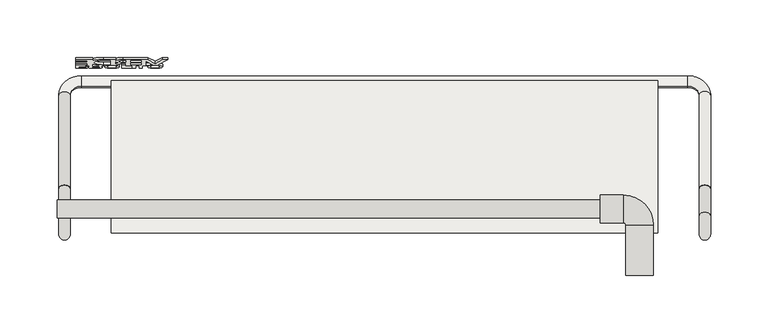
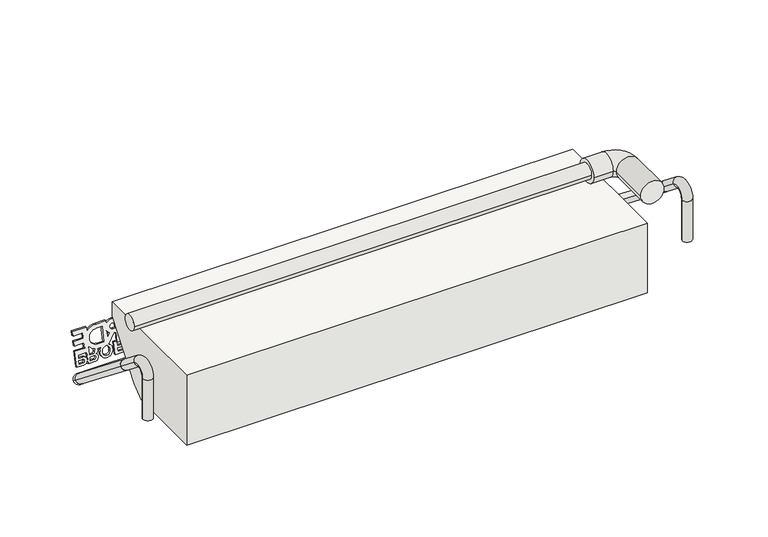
"""IFC4 building model written with IfcOpenShell, lengths in millimetres: covering geometry, panel VP Modulo prova ultima texture : panel VP Modulo prova ultima texture."""

from ifc_helpers import new_model, si_unit, point, frame, frame_2d, origin, place, context, project, spatial, polyline, circle_curve, ellipse_curve, trimmed, segment, composite_curve, outline, extrude, source, transform, mapped, element, save
from ifc_brep_helpers import plane_surface, cylinder_surface, revolved_surface, advanced_brep


def covering_cad52688(model_context):
    return source(origin(), model_context, "Body", "SolidModel", [
        extrude(outline(composite_curve([segment(polyline([(34.7220757, 0.0), (58.7996813, 0.0)]), True, "CONTINUOUS"), segment(trimmed(circle_curve(frame_2d((65.064279, 0.602523)), 6.293506), [point((58.7996813, 0.0))], [point((63.4156115, 6.6762462))], False, "CARTESIAN"), True, "CONTINUOUS"), segment(trimmed(circle_curve(frame_2d((65.6666707, 0.6823428)), 6.4026671), [point((63.4156115, 6.6762462))], [point((68.2653757, -5.1692278))], False, "CARTESIAN"), True, "CONTINUOUS"), segment(trimmed(circle_curve(frame_2d((65.2033193, 0.2002614)), 6.1812298), [point((68.2653757, -5.1692278))], [point((64.2093266, -5.9005239))], False, "CARTESIAN"), True, "CONTINUOUS"), segment(polyline([(64.2093266, -5.9005239), (66.3168223, -11.0476864), (75.8016954, -7.1641235), (76.862281, -9.7544046), (66.3136897, -14.073505), (67.4636632, -16.8820993), (78.0122546, -12.5629989), (79.0728402, -15.15328), (68.5242489, -19.4723804), (70.734808, -24.8712558), (61.6931831, -28.5733317), (62.6270622, -30.854156), (73.074875, -33.0832316)]), True, "CONTINUOUS"), segment(trimmed(circle_curve(frame_2d((79.2445531, -34.0648779)), 6.247284), [point((73.074875, -33.0832316))], [point((77.6263487, -28.0308102))], False, "CARTESIAN"), True, "CONTINUOUS"), segment(trimmed(circle_curve(frame_2d((79.877408, -34.0247136)), 6.4026671), [point((77.6263487, -28.0308102))], [point((82.4790998, -39.8749568))], False, "CARTESIAN"), True, "CONTINUOUS"), segment(trimmed(circle_curve(frame_2d((79.4067188, -34.4842118)), 6.2048092), [point((82.4790998, -39.8749568))], [point((77.0112198, -40.2079555))], False, "CARTESIAN"), True, "CONTINUOUS"), segment(polyline([(77.0112198, -40.2079555), (78.1993615, -43.1097685)]), True, "CONTINUOUS"), segment(trimmed(circle_curve(frame_2d((66.5130174, -47.6019204)), 12.5199867), [point((78.1993615, -43.1097685))], [point((78.4709528, -43.8927628))], False, "CARTESIAN"), True, "CONTINUOUS"), segment(polyline([(78.4709528, -43.8927628), (79.5384706, -43.4513167)]), True, "CONTINUOUS"), segment(trimmed(circle_curve(frame_2d((81.1236564, -46.5289179)), 3.4618554), [point((79.5384706, -43.4513167))], [point((83.2640668, -43.8080566))], False, "CARTESIAN"), True, "CONTINUOUS"), segment(trimmed(circle_curve(frame_2d((86.9930546, -44.5041075)), 3.7933939), [point((83.2640668, -43.8080566))], [point((90.5427255, -43.1663204))], False, "CARTESIAN"), True, "CONTINUOUS"), segment(polyline([(90.5427255, -43.1663204), (93.2835774, -49.8603365), (82.7349861, -54.1794368), (86.0955188, -62.3869066), (89.2825225, -61.0819941), (87.602256, -56.9782588)]), True, "CONTINUOUS"), segment(trimmed(circle_curve(frame_2d((91.2496312, -55.4763574)), 3.9444966), [point((87.602256, -56.9782588))], [point((87.6394877, -53.8870441))], False, "CARTESIAN"), True, "CONTINUOUS"), segment(trimmed(circle_curve(frame_2d((91.0795377, -55.4029609)), 3.7592483), [point((87.6394877, -53.8870441))], [point((89.8068057, -51.865716))], False, "CARTESIAN"), True, "CONTINUOUS"), segment(trimmed(circle_curve(frame_2d((91.3826275, -55.3791794)), 3.8506675), [point((89.8068057, -51.865716))], [point((94.9638437, -53.9640713))], False, "CARTESIAN"), True, "CONTINUOUS"), segment(polyline([(94.9638437, -53.9640713), (97.7046957, -60.6580874), (83.1186527, -66.6303145), (79.3291228, -57.3750995), (74.3249248, -59.4240587), (78.1144547, -68.6792737), (74.077003, -70.3324005), (70.2874731, -61.0771855), (65.283275, -63.1261447), (69.0728049, -72.3813598), (65.0353533, -74.0344866), (59.5536495, -60.6464545), (63.573194, -59.0006598)]), True, "CONTINUOUS"), segment(trimmed(circle_curve(frame_2d((67.4307018, -47.253167)), 12.364625), [point((63.573194, -59.0006598))], [point((55.9786182, -51.9151121))], False, "CARTESIAN"), True, "CONTINUOUS"), segment(polyline([(55.9786182, -51.9151121), (51.9745896, -42.1360244), (54.8949193, -40.940301)]), True, "CONTINUOUS"), segment(trimmed(circle_curve(frame_2d((56.8950264, -33.2916253)), 7.9058629), [point((54.8949193, -40.940301))], [point((49.6285766, -36.4063284))], False, "CARTESIAN"), True, "CONTINUOUS"), segment(polyline([(49.6285766, -36.4063284), (41.3068641, -16.0821088), (53.1289126, -4.4511801), (36.5446028, -4.4511801), (34.7220757, 0.0)]), True, "CONTINUOUS")], self_intersect=False), holes=[composite_curve([segment(polyline([(91.3698144, -60.2273564), (94.5568181, -58.9224439), (93.0429627, -55.2251363)]), True, "CONTINUOUS"), segment(trimmed(circle_curve(frame_2d((91.4494608, -55.8775925)), 1.7219023), [point((93.0429627, -55.2251363))], [point((89.855959, -56.5300488))], True, "CARTESIAN"), True, "CONTINUOUS"), segment(polyline([(89.855959, -56.5300488), (91.3698144, -60.2273564)]), True, "CONTINUOUS")], self_intersect=False), composite_curve([segment(polyline([(77.6536647, -53.2354382), (84.8614042, -50.2842432), (83.4804082, -46.9114199)]), True, "CONTINUOUS"), segment(trimmed(circle_curve(frame_2d((82.0055188, -47.9798171)), 1.8212006), [point((83.4804082, -46.9114199))], [point((81.4459172, -46.2467223))], True, "CARTESIAN"), True, "CONTINUOUS"), segment(polyline([(81.4459172, -46.2467223), (79.005401, -46.7813864)]), True, "CONTINUOUS"), segment(trimmed(circle_curve(frame_2d((66.800009, -47.5936694)), 12.2323913), [point((79.005401, -46.7813864))], [point((77.6536647, -53.2354382))], False, "CARTESIAN"), True, "CONTINUOUS")], self_intersect=False), composite_curve([segment(polyline([(80.0469884, -37.8463889), (81.818283, -37.1211357)]), True, "CONTINUOUS"), segment(trimmed(circle_curve(frame_2d((80.3714599, -33.8224141)), 3.6020635), [point((81.818283, -37.1211357))], [point((79.0874462, -30.4569765))], True, "CARTESIAN"), True, "CONTINUOUS"), segment(polyline([(79.0874462, -30.4569765), (77.318043, -31.1814552)]), True, "CONTINUOUS"), segment(trimmed(circle_curve(frame_2d((78.7640582, -34.4805346)), 3.6020668), [point((77.318043, -31.1814552))], [point((80.0469884, -37.8463889))], True, "CARTESIAN"), True, "CONTINUOUS")], self_intersect=False), composite_curve([segment(polyline([(64.8767089, 4.25008), (63.1073057, 3.5256013)]), True, "CONTINUOUS"), segment(trimmed(circle_curve(frame_2d((64.5533209, 0.2265218)), 3.6020668), [point((63.1073057, 3.5256013))], [point((65.8362512, -3.1393324))], True, "CARTESIAN"), True, "CONTINUOUS"), segment(polyline([(65.8362512, -3.1393324), (67.6075457, -2.4140793)]), True, "CONTINUOUS"), segment(trimmed(circle_curve(frame_2d((66.1607227, 0.8846423)), 3.6020635), [point((67.6075457, -2.4140793))], [point((64.8767089, 4.25008))], True, "CARTESIAN"), True, "CONTINUOUS")], self_intersect=False), composite_curve([segment(polyline([(49.3862172, -14.3776132), (62.966359, -8.8172503), (61.7031824, -5.7321785), (62.543491, -5.3881158)]), True, "CONTINUOUS"), segment(trimmed(circle_curve(frame_2d((65.2914898, 0.489271)), 6.4880792), [point((62.543491, -5.3881158))], [point((60.2929855, -3.647168))], False, "CARTESIAN"), True, "CONTINUOUS"), segment(polyline([(60.2929855, -3.647168), (49.3862172, -14.3776132)]), True, "CONTINUOUS")], self_intersect=False), polyline([(47.598802, -19.9351412), (50.9593347, -28.1426109), (55.9635327, -26.0936517), (52.603, -17.8861819), (47.598802, -19.9351412)]), polyline([(60.0009844, -24.4405249), (65.0051824, -22.3915657), (61.6446497, -14.1840959), (56.6404517, -16.2330551), (60.0009844, -24.4405249)]), composite_curve([segment(polyline([(52.6514049, -32.2754703), (53.692025, -34.8169896)]), True, "CONTINUOUS"), segment(trimmed(circle_curve(frame_2d((56.2265541, -33.8697215)), 2.7057631), [point((53.692025, -34.8169896))], [point((58.6823172, -32.7337722))], True, "CARTESIAN"), True, "CONTINUOUS"), segment(polyline([(58.6823172, -32.7337722), (57.6557066, -30.2264686), (52.6514049, -32.2754703)]), True, "CONTINUOUS")], self_intersect=False), composite_curve([segment(polyline([(62.001845, -38.030384), (66.4600603, -36.2049764), (63.0935891, -35.4866797)]), True, "CONTINUOUS"), segment(trimmed(circle_curve(frame_2d((53.824583, -33.01461)), 9.5929977), [point((63.0935891, -35.4866797))], [point((62.001845, -38.030384))], False, "CARTESIAN"), True, "CONTINUOUS")], self_intersect=False), composite_curve([segment(polyline([(57.7042151, -44.6157146), (60.0160697, -50.2619853)]), True, "CONTINUOUS"), segment(trimmed(circle_curve(frame_2d((67.1061304, -47.5504315)), 7.5908816), [point((60.0160697, -50.2619853))], [point((74.0619175, -44.5109401))], True, "CARTESIAN"), True, "CONTINUOUS"), segment(polyline([(74.0619175, -44.5109401), (71.7500629, -38.8646693), (57.7042151, -44.6157146)]), True, "CONTINUOUS")], self_intersect=False), composite_curve([segment(polyline([(86.9486962, -49.4296055), (90.1356999, -48.124693), (88.6218444, -44.4273854)]), True, "CONTINUOUS"), segment(trimmed(circle_curve(frame_2d((87.0283426, -45.0798417)), 1.7219023), [point((88.6218444, -44.4273854))], [point((85.4348407, -45.7322979))], True, "CARTESIAN"), True, "CONTINUOUS"), segment(polyline([(85.4348407, -45.7322979), (86.9486962, -49.4296055)]), True, "CONTINUOUS")], self_intersect=False)]), frame((-175.3240629, 210.3688908, 529.4713363), z_axis=(0.0, -0.9769248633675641, 0.21358326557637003), x_axis=(-0.3789159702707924, -0.19765659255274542, -0.9040766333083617)), (0.0, 0.0, 1.0), 2.0),
        extrude(outline(polyline([(76.2116947, -23.2064962), (79.3986984, -21.9015837), (77.1881392, -16.5027082), (79.2754312, -15.6480706), (82.5465759, -23.6372271), (70.9744162, -28.3754256), (69.9138306, -25.7851445), (74.1244027, -24.0611338), (71.9138436, -18.6622584), (74.0011355, -17.8076207), (76.2116947, -23.2064962)])), frame((-175.3240629, 210.3688908, 529.4713363), z_axis=(0.0, -0.9769248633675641, 0.21358326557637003), x_axis=(-0.3789159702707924, -0.19765659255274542, -0.9040766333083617)), (0.0, 0.0, 1.0), 2.0),
        advanced_brep(
        [(-284.4808119, 63.5015434, 593.1813202), (-284.4808119, 79.5015434, 593.1813202), (187.7808119, 63.5015434, 593.1813202), (187.7808119, 79.5015434, 593.1813202), (187.7808119, 59.5015434, 593.1813202), (187.7808119, 83.5015434, 593.1813202), (207.7808119, 59.5015434, 593.1813202), (207.7808119, 83.5015434, 593.1813202), (209.7808119, 57.5015434, 593.1813202), (233.7808119, 57.5015434, 593.1813202), (209.7808119, 13.5015434, 593.1813202), (233.7808119, 13.5015434, 593.1813202)],
        [
            (0, 1, circle_curve(frame((-284.4808119, 71.5015434, 593.1813202), z_axis=(-1.0, 0.0, 0.0), x_axis=(0.0, 1.0, 0.0)), 8.0)),
            (1, 0, circle_curve(frame((-284.4808119, 71.5015434, 593.1813202), z_axis=(-1.0, 0.0, 0.0), x_axis=(0.0, 1.0, 0.0)), 8.0)),
            (0, 2),
            (2, 3, circle_curve(frame((187.7808119, 71.5015434, 593.1813202), z_axis=(-1.0, 0.0, 0.0), x_axis=(0.0, 1.0, 0.0)), 8.0)),
            (3, 1),
            (3, 2, circle_curve(frame((187.7808119, 71.5015434, 593.1813202), z_axis=(-1.0, 0.0, 0.0), x_axis=(0.0, 1.0, 0.0)), 8.0)),
            (4, 5, circle_curve(frame((187.7808119, 71.5015434, 593.1813202), z_axis=(-1.0, 0.0, 0.0), x_axis=(0.0, 1.0, 0.0)), 12.0)),
            (5, 4, circle_curve(frame((187.7808119, 71.5015434, 593.1813202), z_axis=(-1.0, 0.0, 0.0), x_axis=(0.0, 1.0, 0.0)), 12.0)),
            (4, 6),
            (6, 7, circle_curve(frame((207.7808119, 71.5015434, 593.1813202), z_axis=(-1.0, 0.0, 0.0), x_axis=(0.0, 1.0, 0.0)), 12.0)),
            (7, 5),
            (7, 6, circle_curve(frame((207.7808119, 71.5015434, 593.1813202), z_axis=(-1.0, 0.0, 0.0), x_axis=(0.0, 1.0, 0.0)), 12.0)),
            (6, 8, circle_curve(frame((207.7808119, 57.5015434, 593.1813202), z_axis=(0.0, 0.0, -1.0), x_axis=(0.0, 1.0, 0.0)), 2.0)),
            (8, 9, circle_curve(frame((221.7808119, 57.5015434, 593.1813202), z_axis=(0.0, 1.0, 0.0), x_axis=(1.0, 0.0, 0.0)), 12.0)),
            (9, 7, circle_curve(frame((207.7808119, 57.5015434, 593.1813202), z_axis=(0.0, 0.0, 1.0), x_axis=(0.0, 1.0, 0.0)), 26.0)),
            (9, 8, circle_curve(frame((221.7808119, 57.5015434, 593.1813202), z_axis=(0.0, 1.0, 0.0), x_axis=(1.0, 0.0, 0.0)), 12.0)),
            (10, 11, circle_curve(frame((221.7808119, 13.5015434, 593.1813202), z_axis=(0.0, -1.0, 0.0), x_axis=(1.0, 0.0, 0.0)), 12.0)),
            (11, 10, circle_curve(frame((221.7808119, 13.5015434, 593.1813202), z_axis=(0.0, -1.0, 0.0), x_axis=(1.0, 0.0, 0.0)), 12.0)),
            (8, 10),
            (11, 9),
        ],
        [
            plane_surface(frame((-284.4808119, 63.5015434, 593.1813202), z_axis=(-1.0, 0.0, 0.0), x_axis=(0.0, 0.0, 1.0))),
            cylinder_surface(frame((-284.4808119, 71.5015434, 593.1813202), z_axis=(-1.0, 0.0, 0.0), x_axis=(0.0, 1.0, 0.0)), 8.0),
            plane_surface(frame((187.7808119, 63.5015434, 593.1813202), z_axis=(-1.0, 0.0, 0.0), x_axis=(0.0, 0.0, 1.0))),
            cylinder_surface(frame((187.7808119, 71.5015434, 593.1813202), z_axis=(-1.0, 0.0, 0.0), x_axis=(0.0, 1.0, 0.0)), 12.0),
            revolved_surface(trimmed(ellipse_curve(frame((207.7808119, 71.5015434, 593.1813202), z_axis=(-1.0, 0.0, 0.0), x_axis=(0.0, 1.0, 0.0)), 12.0, 12.0), [point((207.7808119, 59.5015434, 593.1813202))], [point((207.7808119, 83.5015434, 593.1813202))], True, "CARTESIAN"), (207.7808119, 57.5015434, 593.1813202), (0.0, 0.0, -1.0)),
            revolved_surface(trimmed(ellipse_curve(frame((207.7808119, 71.5015434, 593.1813202), z_axis=(-1.0, 0.0, 0.0), x_axis=(0.0, 1.0, 0.0)), 12.0, 12.0), [point((207.7808119, 83.5015434, 593.1813202))], [point((207.7808119, 59.5015434, 593.1813202))], True, "CARTESIAN"), (207.7808119, 57.5015434, 593.1813202), (0.0, 0.0, -1.0)),
            plane_surface(frame((213.7808119, 13.5015434, 593.1813202), z_axis=(0.0, -1.0, 0.0), x_axis=(0.0, 0.0, 1.0))),
            cylinder_surface(frame((221.7808119, 57.5015434, 593.1813202), z_axis=(0.0, 1.0, 0.0), x_axis=(1.0, 0.0, 0.0)), 12.0),
        ],
        [
            (0, [[1, 2]]),
            (1, [[-1, 3, 4, 5]]),
            (1, [[-2, -5, 6, -3]]),
            (2, [[7, 8], [-4, -6]]),
            (3, [[-7, 9, 10, 11]]),
            (3, [[-8, -11, 12, -9]]),
            (4, [[-10, 13, 14, 15]]),
            (5, [[-12, -15, 16, -13]]),
            (6, [[17, 18]]),
            (7, [[-14, 19, -18, 20]]),
            (7, [[-16, -20, -17, -19]]),
        ],
    ),
        advanced_brep(
        [(283.4808119, 89.2250572, 533.983262), (273.4808119, 89.2251428, 533.9833699), (283.4808119, 170.6491384, 469.463417), (273.4808119, 170.6492239, 469.463525), (263.4808119, 178.4869122, 463.2529982), (263.4808119, 186.324515, 457.0423635), (-263.4808119, 186.324515, 457.0423635), (-263.4808119, 178.4869122, 463.2529982), (-273.4808119, 170.6492239, 469.463525), (-283.4808119, 170.6491384, 469.463417), (-283.4808119, 89.2250494, 533.9832681), (-273.4808119, 89.225135, 533.9833761)],
        [
            (0, 1, circle_curve(frame((278.4808119, 89.2250572, 533.983262), z_axis=(0.0, -0.7837688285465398, 0.6210526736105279), x_axis=(1.0, 0.0, 0.0)), 5.0)),
            (1, 0, circle_curve(frame((278.4808119, 89.2250572, 533.983262), z_axis=(0.0, -0.7837688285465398, 0.6210526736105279), x_axis=(1.0, 0.0, 0.0)), 5.0)),
            (0, 2),
            (2, 3, circle_curve(frame((278.4808119, 170.6491384, 469.463417), z_axis=(0.0, -0.7837688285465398, 0.6210526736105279), x_axis=(1.0, 0.0, 0.0)), 5.0)),
            (3, 1),
            (3, 2, circle_curve(frame((278.4808119, 170.6491384, 469.463417), z_axis=(0.0, -0.7837688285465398, 0.6210526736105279), x_axis=(1.0, 0.0, 0.0)), 5.0)),
            (4, 3, circle_curve(frame((263.4808119, 170.6492239, 469.463525), z_axis=(0.0, -0.6210526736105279, -0.7837688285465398), x_axis=(1.0, 0.0, 0.0)), 10.0)),
            (2, 5, circle_curve(frame((263.4808119, 170.6491384, 469.463417), z_axis=(0.0, 0.6210526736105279, 0.7837688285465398), x_axis=(1.0, 0.0, 0.0)), 20.0)),
            (5, 4, circle_curve(frame((263.4808119, 182.4056708, 460.1476269), z_axis=(1.0, 0.0, 0.0), x_axis=(0.0, 0.7837688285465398, -0.6210526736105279)), 5.0)),
            (4, 5, circle_curve(frame((263.4808119, 182.4056708, 460.1476269), z_axis=(1.0, 0.0, 0.0), x_axis=(0.0, 0.7837688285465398, -0.6210526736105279)), 5.0)),
            (5, 6),
            (6, 7, circle_curve(frame((-263.4808119, 182.4056708, 460.1476269), z_axis=(1.0, 0.0, 0.0), x_axis=(0.0, 0.7837688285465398, -0.6210526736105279)), 5.0)),
            (7, 4),
            (7, 6, circle_curve(frame((-263.4808119, 182.4056708, 460.1476269), z_axis=(1.0, 0.0, 0.0), x_axis=(0.0, 0.7837688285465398, -0.6210526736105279)), 5.0)),
            (8, 7, circle_curve(frame((-263.4808119, 170.6492239, 469.463525), z_axis=(0.0, -0.6210526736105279, -0.7837688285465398), x_axis=(0.0, 0.7837688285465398, -0.6210526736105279)), 10.0)),
            (6, 9, circle_curve(frame((-263.4808119, 170.6491384, 469.463417), z_axis=(0.0, 0.6210526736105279, 0.7837688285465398), x_axis=(0.0, 0.7837688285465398, -0.6210526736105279)), 20.0)),
            (9, 8, circle_curve(frame((-278.4808119, 170.6491384, 469.463417), z_axis=(0.0, 0.7837688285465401, -0.6210526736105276), x_axis=(-1.0000000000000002, 0.0, 0.0)), 5.0)),
            (8, 9, circle_curve(frame((-278.4808119, 170.6491384, 469.463417), z_axis=(0.0, 0.7837688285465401, -0.6210526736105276), x_axis=(-1.0000000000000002, 0.0, 0.0)), 5.0)),
            (10, 11, circle_curve(frame((-278.4808119, 89.2250494, 533.9832681), z_axis=(0.0, -0.7837688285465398, 0.6210526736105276), x_axis=(-1.0, 0.0, 0.0)), 5.0)),
            (11, 10, circle_curve(frame((-278.4808119, 89.2250494, 533.9832681), z_axis=(0.0, -0.7837688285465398, 0.6210526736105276), x_axis=(-1.0, 0.0, 0.0)), 5.0)),
            (9, 10),
            (11, 8),
        ],
        [
            plane_surface(frame((273.4808119, 92.3304015, 537.9022082), z_axis=(0.0, -0.7837688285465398, 0.6210526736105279), x_axis=(0.0, -0.6210526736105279, -0.7837688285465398))),
            cylinder_surface(frame((278.4808119, 89.2250572, 533.983262), z_axis=(0.0, -0.7837688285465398, 0.6210526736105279), x_axis=(1.0, 0.0, 0.0)), 5.0),
            revolved_surface(trimmed(ellipse_curve(frame((278.4808119, 170.6491384, 469.463417), z_axis=(0.0, -0.7837688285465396, 0.6210526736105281), x_axis=(1.0, 0.0, 0.0)), 5.0, 5.0), [point((283.4808119, 170.6491384, 469.463417))], [point((273.4808119, 170.6492239, 469.463525))], True, "CARTESIAN"), (263.4808119, 173.7544827, 473.3823633), (0.0, 0.6210526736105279, 0.7837688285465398)),
            revolved_surface(trimmed(ellipse_curve(frame((278.4808119, 170.6491384, 469.463417), z_axis=(0.0, -0.7837688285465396, 0.6210526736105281), x_axis=(1.0, 0.0, 0.0)), 5.0, 5.0), [point((273.4808119, 170.6492239, 469.463525))], [point((283.4808119, 170.6491384, 469.463417))], True, "CARTESIAN"), (263.4808119, 173.7544827, 473.3823633), (0.0, 0.6210526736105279, 0.7837688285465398)),
            cylinder_surface(frame((263.4808119, 182.4056708, 460.1476269), z_axis=(1.0000000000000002, 0.0, 0.0), x_axis=(0.0, 0.7837688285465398, -0.6210526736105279)), 5.0),
            revolved_surface(trimmed(ellipse_curve(frame((-263.4808119, 182.4056708, 460.1476269), z_axis=(1.0000000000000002, 0.0, 0.0), x_axis=(0.0, 0.7837688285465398, -0.6210526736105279)), 5.0, 5.0), [point((-263.4808119, 186.324515, 457.0423635))], [point((-263.4808119, 178.4869122, 463.2529982))], True, "CARTESIAN"), (-263.4808119, 173.7544827, 473.3823633), (0.0, 0.6210526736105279, 0.7837688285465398)),
            revolved_surface(trimmed(ellipse_curve(frame((-263.4808119, 182.4056708, 460.1476269), z_axis=(1.0000000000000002, 0.0, 0.0), x_axis=(0.0, 0.7837688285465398, -0.6210526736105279)), 5.0, 5.0), [point((-263.4808119, 178.4869122, 463.2529982))], [point((-263.4808119, 186.324515, 457.0423635))], True, "CARTESIAN"), (-263.4808119, 173.7544827, 473.3823633), (0.0, 0.6210526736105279, 0.7837688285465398)),
            plane_surface(frame((-273.4808119, 92.3303937, 537.9022144), z_axis=(0.0, -0.7837688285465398, 0.6210526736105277), x_axis=(0.0, -0.6210526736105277, -0.7837688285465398))),
            cylinder_surface(frame((-278.4808119, 170.6491384, 469.463417), z_axis=(0.0, 0.7837688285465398, -0.6210526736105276), x_axis=(-1.0, 0.0, 0.0)), 5.0),
        ],
        [
            (0, [[1, 2]]),
            (1, [[-1, 3, 4, 5]]),
            (1, [[-2, -5, 6, -3]]),
            (2, [[7, -4, 8, 9]]),
            (3, [[-8, -6, -7, 10]]),
            (4, [[-9, 11, 12, 13]]),
            (4, [[-10, -13, 14, -11]]),
            (5, [[15, -12, 16, 17]]),
            (6, [[-16, -14, -15, 18]]),
            (7, [[19, 20]]),
            (8, [[-17, 21, -20, 22]]),
            (8, [[-18, -22, -19, -21]]),
        ],
    ),
        advanced_brep(
        [(-273.4808119, 89.225135, 533.9833761), (-283.4808119, 89.225135, 533.9833761), (-283.4808119, 65.7120701, 552.6149563), (-273.4808119, 65.7120701, 552.6149563), (-273.4808119, 49.5015434, 544.777268), (-283.4808119, 49.5015434, 544.777268), (-273.4808119, 49.5015434, 500.4751228), (-283.4808119, 49.5015434, 500.4751228)],
        [
            (0, 1, circle_curve(frame((-278.4808119, 89.225135, 533.9833761), z_axis=(0.0, 0.7837688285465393, -0.6210526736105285), x_axis=(-1.0, 0.0, 0.0)), 5.0)),
            (1, 0, circle_curve(frame((-278.4808119, 89.225135, 533.9833761), z_axis=(0.0, 0.7837688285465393, -0.6210526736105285), x_axis=(-1.0, 0.0, 0.0)), 5.0)),
            (1, 2),
            (2, 3, circle_curve(frame((-278.4808119, 65.7120701, 552.6149563), z_axis=(0.0, 0.7837688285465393, -0.6210526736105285), x_axis=(-1.0, 0.0, 0.0)), 5.0)),
            (3, 0),
            (3, 2, circle_curve(frame((-278.4808119, 65.7120701, 552.6149563), z_axis=(0.0, 0.7837688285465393, -0.6210526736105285), x_axis=(-1.0, 0.0, 0.0)), 5.0)),
            (4, 3, circle_curve(frame((-273.4808119, 59.5015434, 544.777268), z_axis=(-1.0, 0.0, 0.0), x_axis=(0.0, 0.6210526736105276, 0.78376882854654)), 10.0)),
            (2, 5, circle_curve(frame((-283.4808119, 59.5015434, 544.777268), z_axis=(1.0, 0.0, 0.0), x_axis=(0.0, 0.6210526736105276, 0.78376882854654)), 10.0)),
            (5, 4, circle_curve(frame((-278.4808119, 49.5015434, 544.777268), z_axis=(0.0, 0.0, 1.0), x_axis=(-1.0, 0.0, 0.0)), 5.0)),
            (4, 5, circle_curve(frame((-278.4808119, 49.5015434, 544.777268), z_axis=(0.0, 0.0, 1.0), x_axis=(-1.0, 0.0, 0.0)), 5.0)),
            (6, 7, circle_curve(frame((-278.4808119, 49.5015434, 500.4751228), z_axis=(0.0, 0.0, -1.0), x_axis=(-1.0, 0.0, 0.0)), 5.0)),
            (7, 6, circle_curve(frame((-278.4808119, 49.5015434, 500.4751228), z_axis=(0.0, 0.0, -1.0), x_axis=(-1.0, 0.0, 0.0)), 5.0)),
            (5, 7),
            (6, 4),
        ],
        [
            plane_surface(frame((-273.4808119, 89.225135, 533.9833761), z_axis=(0.0, 0.7837688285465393, -0.6210526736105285), x_axis=(-1.0, 0.0, 0.0))),
            cylinder_surface(frame((-278.4808119, 89.225135, 533.9833761), z_axis=(0.0, 0.7837688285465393, -0.6210526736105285), x_axis=(-1.0, 0.0, 0.0)), 5.0),
            revolved_surface(trimmed(ellipse_curve(frame((-278.4808119, 65.7120701, 552.6149563), z_axis=(0.0, 0.78376882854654, -0.6210526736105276), x_axis=(-1.0, 0.0, 0.0)), 5.0, 5.0), [point((-283.4808119, 65.7120701, 552.6149563))], [point((-273.4808119, 65.7120701, 552.6149563))], True, "CARTESIAN"), (-273.4808119, 59.5015434, 544.777268), (1.0, 0.0, 0.0)),
            revolved_surface(trimmed(ellipse_curve(frame((-278.4808119, 65.7120701, 552.6149563), z_axis=(0.0, 0.78376882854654, -0.6210526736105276), x_axis=(-1.0, 0.0, 0.0)), 5.0, 5.0), [point((-273.4808119, 65.7120701, 552.6149563))], [point((-283.4808119, 65.7120701, 552.6149563))], True, "CARTESIAN"), (-273.4808119, 59.5015434, 544.777268), (1.0, 0.0, 0.0)),
            plane_surface(frame((-273.4808119, 49.5015434, 500.4751228), z_axis=(0.0, 0.0, -1.0), x_axis=(-1.0, 0.0, 0.0))),
            cylinder_surface(frame((-278.4808119, 49.5015434, 544.777268), z_axis=(0.0, 0.0, 1.0), x_axis=(-1.0, 0.0, 0.0)), 5.0),
        ],
        [
            (0, [[1, 2]]),
            (1, [[-2, 3, 4, 5]]),
            (1, [[-1, -5, 6, -3]]),
            (2, [[7, -4, 8, 9]]),
            (3, [[-8, -6, -7, 10]]),
            (4, [[11, 12]]),
            (5, [[-9, 13, -11, 14]]),
            (5, [[-10, -14, -12, -13]]),
        ],
    ),
        advanced_brep(
        [(273.4808119, 89.2251242, 533.9833465), (283.4808119, 89.2251242, 533.9833465), (273.4808119, 65.7120779, 552.6149501), (283.4808119, 65.7120779, 552.6149501), (283.4808119, 49.5015434, 544.777268), (273.4808119, 49.5015434, 544.777268), (273.4808119, 49.5015434, 500.4751228), (283.4808119, 49.5015434, 500.4751228)],
        [
            (0, 1, circle_curve(frame((278.4808119, 89.2251242, 533.9833465), z_axis=(0.0, 0.7837682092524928, -0.621053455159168), x_axis=(1.0, 0.0, 0.0)), 5.0)),
            (1, 0, circle_curve(frame((278.4808119, 89.2251242, 533.9833465), z_axis=(0.0, 0.7837682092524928, -0.621053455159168), x_axis=(1.0, 0.0, 0.0)), 5.0)),
            (0, 2),
            (2, 3, circle_curve(frame((278.4808119, 65.7120779, 552.6149501), z_axis=(0.0, 0.7837682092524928, -0.621053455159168), x_axis=(1.0, 0.0, 0.0)), 5.0)),
            (3, 1),
            (3, 2, circle_curve(frame((278.4808119, 65.7120779, 552.6149501), z_axis=(0.0, 0.7837682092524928, -0.621053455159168), x_axis=(1.0, 0.0, 0.0)), 5.0)),
            (4, 3, circle_curve(frame((283.4808119, 59.5015434, 544.777268), z_axis=(-1.0, 0.0, 0.0), x_axis=(0.0, 0.6210534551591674, 0.7837682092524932)), 10.0)),
            (2, 5, circle_curve(frame((273.4808119, 59.5015434, 544.777268), z_axis=(1.0, 0.0, 0.0), x_axis=(0.0, 0.6210534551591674, 0.7837682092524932)), 10.0)),
            (5, 4, circle_curve(frame((278.4808119, 49.5015434, 544.777268), z_axis=(0.0, 0.0, 1.0), x_axis=(1.0, 0.0, 0.0)), 5.0)),
            (4, 5, circle_curve(frame((278.4808119, 49.5015434, 544.777268), z_axis=(0.0, 0.0, 1.0), x_axis=(1.0, 0.0, 0.0)), 5.0)),
            (6, 7, circle_curve(frame((278.4808119, 49.5015434, 500.4751228), z_axis=(0.0, 0.0, -1.0), x_axis=(1.0, 0.0, 0.0)), 5.0)),
            (7, 6, circle_curve(frame((278.4808119, 49.5015434, 500.4751228), z_axis=(0.0, 0.0, -1.0), x_axis=(1.0, 0.0, 0.0)), 5.0)),
            (5, 6),
            (7, 4),
        ],
        [
            plane_surface(frame((273.4808119, 89.2251242, 533.9833465), z_axis=(0.0, 0.7837682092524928, -0.621053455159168), x_axis=(1.0, 0.0, 0.0))),
            cylinder_surface(frame((278.4808119, 89.2251242, 533.9833465), z_axis=(0.0, 0.7837682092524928, -0.621053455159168), x_axis=(1.0, 0.0, 0.0)), 5.0),
            revolved_surface(trimmed(ellipse_curve(frame((278.4808119, 65.7120779, 552.6149501), z_axis=(0.0, 0.7837682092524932, -0.6210534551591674), x_axis=(1.0, 0.0, 0.0)), 5.0, 5.0), [point((273.4808119, 65.7120779, 552.6149501))], [point((283.4808119, 65.7120779, 552.6149501))], True, "CARTESIAN"), (273.4808119, 59.5015434, 544.777268), (1.0, 0.0, 0.0)),
            revolved_surface(trimmed(ellipse_curve(frame((278.4808119, 65.7120779, 552.6149501), z_axis=(0.0, 0.7837682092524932, -0.6210534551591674), x_axis=(1.0, 0.0, 0.0)), 5.0, 5.0), [point((283.4808119, 65.7120779, 552.6149501))], [point((273.4808119, 65.7120779, 552.6149501))], True, "CARTESIAN"), (273.4808119, 59.5015434, 544.777268), (1.0, 0.0, 0.0)),
            plane_surface(frame((273.4808119, 49.5015434, 500.4751228), z_axis=(0.0, 0.0, -1.0), x_axis=(1.0, 0.0, 0.0))),
            cylinder_surface(frame((278.4808119, 49.5015434, 544.777268), z_axis=(0.0, 0.0, 1.0), x_axis=(1.0, 0.0, 0.0)), 5.0),
        ],
        [
            (0, [[1, 2]]),
            (1, [[-1, 3, 4, 5]]),
            (1, [[-2, -5, 6, -3]]),
            (2, [[7, -4, 8, 9]]),
            (3, [[-8, -6, -7, 10]]),
            (4, [[11, 12]]),
            (5, [[-9, 13, -12, 14]]),
            (5, [[-10, -14, -11, -13]]),
        ],
    ),
        extrude(outline(polyline([(132.1625373, 455.5216565), (50.5015434, 455.5216565), (50.5015434, 531.5216565), (183.4941844, 531.5216565), (183.4941844, 515.8549334), (143.8388149, 465.8098381), (132.1625373, 455.5216565)])), frame((-237.7808119, 0.0, 0.0), z_axis=(1.0, 0.0, 0.0), x_axis=(0.0, 1.0, 0.0)), (0.0, 0.0, 1.0), 475.5616238),
    ])


if __name__ == "__main__":
    model = new_model("IFC4")
    model_context = context("Model", 3, world=origin())
    ifc_project = project(units=[si_unit("LENGTHUNIT", "METRE", prefix="MILLI")], contexts=[model_context])
    site = spatial("IfcSite", under=ifc_project)
    building = spatial("IfcBuilding", under=site)
    placement = place(None, origin())
    covering_shape = covering_cad52688(model_context)
    element("IfcCovering", 1, ObjectType="panel VP Modulo prova ultima texture : panel VP Modulo prova ultima texture", at=placement, inside=building, context=model_context, shape_type="MappedRepresentation", body=[
        mapped(covering_shape, transform((0.0, 0.0, 0.0), x_axis=(1.0, 0.0, 0.0), y_axis=(0.0, 1.0, 0.0), z_axis=(0.0, 0.0, 1.0))),
    ])
    save(model, "model.ifc")
